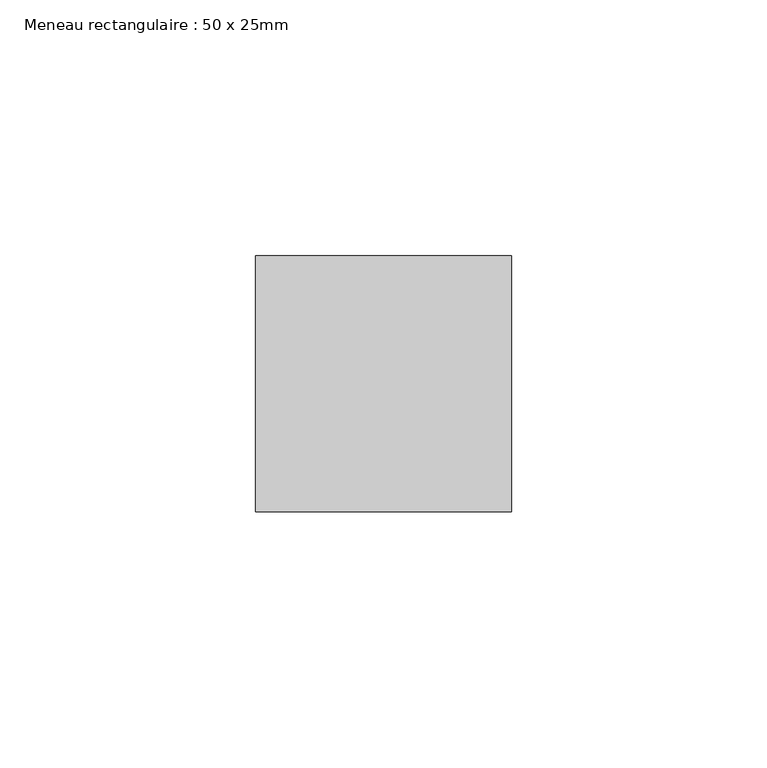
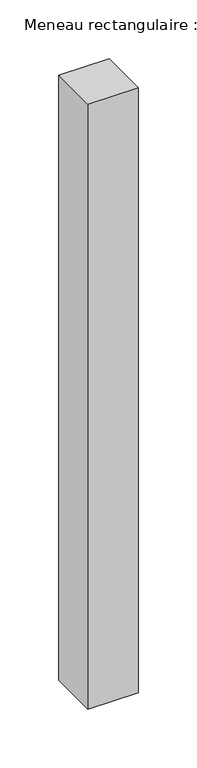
"""IFC4 building model written with IfcOpenShell, lengths in millimetres: member geometry, Meneau rectangulaire : 50 x 25mm."""

import ifcopenshell
import ifcopenshell.guid

model = None  # the IFC model being written
_history = None  # IfcOwnerHistory: only IFC2X3 demands one
_inside = {}  # id of a spatial element -> (the spatial element, [elements in it])
_under = {}  # id of a project, library or spatial element -> (it, [spatial elements below it])
_declared = {}  # id of a project -> (the project, [libraries it declares])
_typed = {}  # id of a type object -> (the type object, [elements of that type])
_made_of = {}  # id of a material, layer set ... -> (it, [elements and type objects made of it])


def new_model(schema):
    """Start an empty IFC model of exactly this schema.

    Asked for "IFC4X3", IfcOpenShell would pick the latest addendum, in which some entities
    have other attributes; the version numbers below select the first issue.
    IFC2X3 requires an IfcOwnerHistory on every rooted entity: one is made here for all.
    """
    global model, _history
    if schema == "IFC4X3":
        model = ifcopenshell.file(schema_version=(4, 3, 0, 0))
    else:
        model = ifcopenshell.file(schema=schema)
    _inside.clear()
    _under.clear()
    _declared.clear()
    _typed.clear()
    _made_of.clear()
    _history = None
    if model.schema == "IFC2X3":
        org = make("IfcOrganization", Name="unknown")
        user = make(
            "IfcPersonAndOrganization",
            ThePerson=make("IfcPerson", FamilyName="unknown"),
            TheOrganization=org,
        )
        app = make(
            "IfcApplication",
            ApplicationDeveloper=org,
            Version="unknown",
            ApplicationFullName="unknown",
            ApplicationIdentifier="unknown",
        )
        _history = make(
            "IfcOwnerHistory",
            OwningUser=user,
            OwningApplication=app,
            ChangeAction="ADDED",
            CreationDate=0,
        )
    return model


def make(cls, **values):
    """One entity of the class cls with the attributes given. An attribute that is None is left unset."""
    return model.create_entity(
        cls, **{name: value for name, value in values.items() if value is not None}
    )


def rooted(cls, **values):
    """An entity with a GlobalId (a new one), such as an element, a storey or a relation."""
    return make(cls, GlobalId=ifcopenshell.guid.new(), OwnerHistory=_history, **values)


def si_unit(unit_type, name, prefix=None):
    """IfcSIUnit, for example si_unit("LENGTHUNIT", "METRE", prefix="MILLI")."""
    return make("IfcSIUnit", UnitType=unit_type, Prefix=prefix, Name=name)


def assignment(units):
    """IfcUnitAssignment: the units of a project."""
    return None if units is None else make("IfcUnitAssignment", Units=units)


def point(xyz):
    """IfcCartesianPoint."""
    return None if xyz is None else make("IfcCartesianPoint", Coordinates=xyz)


def direction(xyz):
    """IfcDirection."""
    return None if xyz is None else make("IfcDirection", DirectionRatios=xyz)


def frame(location, z_axis=None, x_axis=None):
    """IfcAxis2Placement3D, a coordinate frame: its origin and axes. An axis left out is left unset."""
    return make(
        "IfcAxis2Placement3D",
        Location=point(location),
        Axis=direction(z_axis),
        RefDirection=direction(x_axis),
    )


def origin():
    """The frame at (0, 0, 0) with its axes left unset."""
    return frame((0.0, 0.0, 0.0))


def place(relative_to, where):
    """IfcLocalPlacement: puts the frame where relative to a parent placement (None: the world)."""
    return make(
        "IfcLocalPlacement", PlacementRelTo=relative_to, RelativePlacement=where
    )


def context(
    kind, dimensions, precision=None, world=None, true_north=None, identifier=None
):
    """IfcGeometricRepresentationContext, for example the 3D "Model" context."""
    return make(
        "IfcGeometricRepresentationContext",
        ContextIdentifier=identifier,
        ContextType=kind,
        CoordinateSpaceDimension=dimensions,
        Precision=precision,
        WorldCoordinateSystem=world,
        TrueNorth=true_north,
    )


def project(units=None, contexts=None):
    """IfcProject with its units and contexts."""
    return rooted(
        "IfcProject",
        Name="project",
        RepresentationContexts=contexts,
        UnitsInContext=assignment(units),
    )


def spatial(cls, under=None, at=None, **own):
    """A site, building, storey or space (cls), placed at a placement, below another one or the project."""
    s = rooted(cls, ObjectPlacement=at, **own)
    if under is not None:
        _under.setdefault(under.id(), (under, []))[1].append(s)
    return s


def polyline(points):
    """IfcPolyline through the points."""
    return make("IfcPolyline", Points=[point(p) for p in points])


def outline(outer, holes=None, kind="AREA"):
    """IfcArbitraryClosedProfileDef: a profile drawn as a closed curve; with holes, ...WithVoids."""
    if holes is None:
        return make("IfcArbitraryClosedProfileDef", ProfileType=kind, OuterCurve=outer)
    return make(
        "IfcArbitraryProfileDefWithVoids",
        ProfileType=kind,
        OuterCurve=outer,
        InnerCurves=holes,
    )


def extrude(swept, where, along, depth):
    """IfcExtrudedAreaSolid: the profile swept, set in the frame where, extruded along a direction by depth."""
    return make(
        "IfcExtrudedAreaSolid",
        SweptArea=swept,
        Position=where,
        ExtrudedDirection=direction(along),
        Depth=depth,
    )


def shape(context_of_items, identifier, shape_type, items):
    """IfcShapeRepresentation: the items that make up one representation, for example the "Body"."""
    return make(
        "IfcShapeRepresentation",
        ContextOfItems=context_of_items,
        RepresentationIdentifier=identifier,
        RepresentationType=shape_type,
        Items=items,
    )


def source(mapping_origin, context_of_items, identifier, shape_type, items):
    """IfcRepresentationMap: a shape defined once, which mapped items show again and again."""
    return make(
        "IfcRepresentationMap",
        MappingOrigin=mapping_origin,
        MappedRepresentation=shape(context_of_items, identifier, shape_type, items),
    )


def transform(
    local_origin,
    x_axis=None,
    y_axis=None,
    z_axis=None,
    scale=None,
    scale2=None,
    scale3=None,
    uniform=True,
):
    """IfcCartesianTransformationOperator3D, or its non-uniform kind. x_axis, y_axis, z_axis: its Axis1, 2, 3."""
    if uniform:
        return make(
            "IfcCartesianTransformationOperator3D",
            Axis1=direction(x_axis),
            Axis2=direction(y_axis),
            LocalOrigin=point(local_origin),
            Scale=scale,
            Axis3=direction(z_axis),
        )
    return make(
        "IfcCartesianTransformationOperator3DnonUniform",
        Axis1=direction(x_axis),
        Axis2=direction(y_axis),
        LocalOrigin=point(local_origin),
        Scale=scale,
        Axis3=direction(z_axis),
        Scale2=scale2,
        Scale3=scale3,
    )


def mapped(mapping_source, mapping_target):
    """IfcMappedItem: shows the shape of a source again, moved by a transform."""
    return make(
        "IfcMappedItem", MappingSource=mapping_source, MappingTarget=mapping_target
    )


def made_of(thing, what):
    """Note that an element or type object is made of a material, layer set ...; save() writes the relation."""
    if what is not None:
        _made_of.setdefault(what.id(), (what, []))[1].append(thing)
    return thing


def element(
    cls,
    number,
    at=None,
    inside=None,
    cuts=None,
    type_object=None,
    material=None,
    context=None,
    identifier="Body",
    shape_type=None,
    held_by="IfcProductDefinitionShape",
    body=None,
    shapes=None,
    **own,
):
    """One element of the class cls, such as IfcWall. Its Tag is "e" and its number.

    at: its placement. inside: the storey or other place that contains it. cuts: it is an
    opening in that element (IfcRelVoidsElement). A single representation is given by context,
    identifier, shape_type and body (its items); several are given by shapes. held_by: the class
    of the entity that holds the representations. save() writes the other relations.
    """
    e = rooted(cls, Tag="e%d" % number, ObjectPlacement=at, **own)
    if body is not None:
        shapes = [shape(context, identifier, shape_type, body)]
    if shapes is not None:
        e.Representation = make(held_by, Representations=shapes)
    if inside is not None:
        _inside.setdefault(inside.id(), (inside, []))[1].append(e)
    if cuts is not None:
        rooted(
            "IfcRelVoidsElement", RelatingBuildingElement=cuts, RelatedOpeningElement=e
        )
    if type_object is not None:
        _typed.setdefault(type_object.id(), (type_object, []))[1].append(e)
    return made_of(e, material)


def aggregate(whole, parts):
    """IfcRelAggregates: a whole, such as a stair, and the parts it consists of."""
    return rooted("IfcRelAggregates", RelatingObject=whole, RelatedObjects=parts)


def save(model, path):
    """Write the relations noted so far, then the file.

    IfcRelAggregates (storeys below a building ...), IfcRelContainedInSpatialStructure (elements
    in a storey), IfcRelDefinesByType, IfcRelAssociatesMaterial and IfcRelDeclares: one each for
    every whole, place, type object, material and project.
    """
    for whole, parts in _under.values():
        aggregate(whole, parts)
    for where, things in _inside.values():
        rooted(
            "IfcRelContainedInSpatialStructure",
            RelatedElements=things,
            RelatingStructure=where,
        )
    for kind, things in _typed.values():
        rooted("IfcRelDefinesByType", RelatedObjects=things, RelatingType=kind)
    for what, things in _made_of.values():
        rooted("IfcRelAssociatesMaterial", RelatedObjects=things, RelatingMaterial=what)
    for by, libraries in _declared.values():
        rooted("IfcRelDeclares", RelatingContext=by, RelatedDefinitions=libraries)
    model.write(path)


def meneau_rectangulaire_50_x_25mm_4c6c144a(model_context):
    return source(origin(), model_context, "Body", "SweptSolid", [
        extrude(outline(polyline([(0.0, 0.0), (0.0, -50.0), (-50.0, -50.0), (-50.0, 0.0), (0.0, 0.0)])), frame((0.0, 0.0, -631.2553813), z_axis=(0.0, 0.0, 1.0), x_axis=(1.0, 0.0, 0.0)), (0.0, 0.0, 1.0), 631.2553813),
    ])


if __name__ == "__main__":
    model = new_model("IFC4")
    model_context = context("Model", 3, world=origin())
    ifc_project = project(units=[si_unit("LENGTHUNIT", "METRE", prefix="MILLI")], contexts=[model_context])
    site = spatial("IfcSite", under=ifc_project)
    building = spatial("IfcBuilding", under=site)
    placement = place(None, origin())
    meneau_rectangulaire_50_x_25mm_shape = meneau_rectangulaire_50_x_25mm_4c6c144a(model_context)
    element("IfcMember", 1, ObjectType="Meneau rectangulaire : 50 x 25mm", at=placement, inside=building, context=model_context, shape_type="MappedRepresentation", body=[
        mapped(meneau_rectangulaire_50_x_25mm_shape, transform((0.0, 0.0, 0.0), x_axis=(1.0, 0.0, 0.0), y_axis=(0.0, 1.0, 0.0), z_axis=(0.0, 0.0, 1.0))),
    ])
    save(model, "model.ifc")
